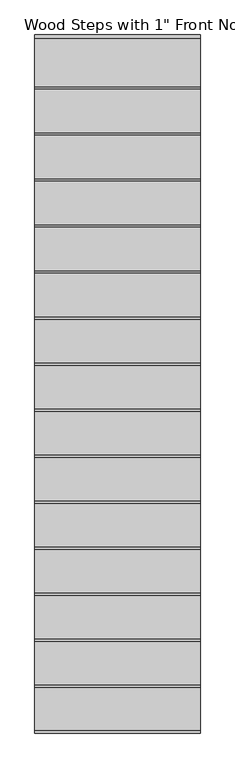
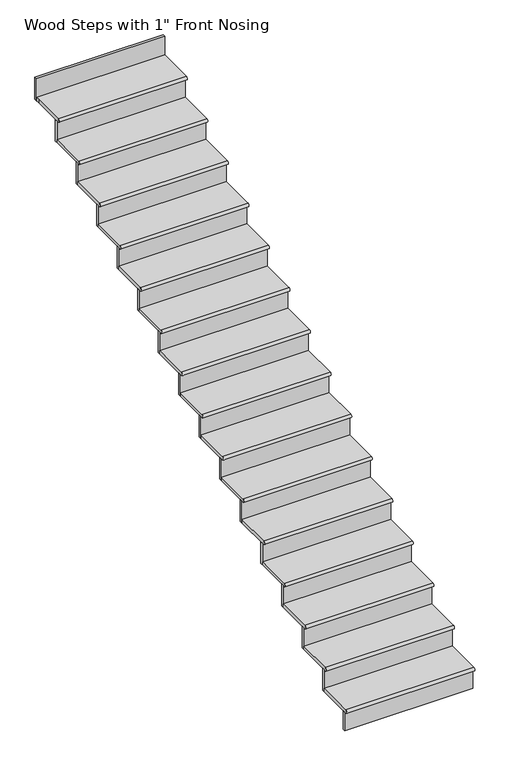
"""IFC4 building model written with IfcOpenShell, lengths in millimetres: stair flight geometry."""

from ifc_helpers import new_model, si_unit, frame, origin, place, context, project, spatial, circle_curve, faceted_brep, source, transform, mapped, element, save
from ifc_brep_helpers import plane_surface, cylinder_surface, advanced_brep


def stair_flight_4d136fde(model_context):
    return source(origin(), model_context, "Body", "SolidModel", [
        advanced_brep(
        [(-2868.1379486, -5487.6289462, -2038.746875), (-2868.1379486, -5487.6289462, -2013.346875), (-3782.5379486, -5487.6289462, -2013.346875), (-3782.5379486, -5487.6289462, -2038.746875), (-3782.5379486, -5220.9289462, -2013.346875), (-2868.1379486, -5220.9289462, -2013.346875), (-3782.5379486, -5220.9289462, -2038.746875), (-2868.1379486, -5220.9289462, -2038.746875)],
        [
            (0, 1, circle_curve(frame((-2868.1379486, -5487.6289462, -2026.046875), z_axis=(-1.0, 0.0, 0.0), x_axis=(0.0, 1.0, 0.0)), 12.7)),
            (1, 2),
            (2, 3, circle_curve(frame((-3782.5379486, -5487.6289462, -2026.046875), z_axis=(1.0, 0.0, 0.0), x_axis=(0.0, 1.0, 0.0)), 12.7)),
            (3, 0),
            (4, 2),
            (1, 5),
            (5, 4),
            (3, 6),
            (6, 7),
            (7, 0),
            (4, 6),
            (7, 5),
        ],
        [
            cylinder_surface(frame((-2868.1379486, -5487.6289462, -2026.046875), z_axis=(1.0, 0.0, 0.0), x_axis=(0.0, 1.0, 0.0)), 12.7),
            plane_surface(frame((-3782.5379486, -5500.3289462, -2013.346875), z_axis=(0.0, 0.0, 1.0), x_axis=(0.0, -1.0, 0.0))),
            plane_surface(frame((-3782.5379486, -5500.3289462, -2038.746875), z_axis=(0.0, 0.0, -1.0), x_axis=(0.0, 1.0, 0.0))),
            plane_surface(frame((-3782.5379486, -5220.9289462, -2013.346875), z_axis=(-1.0, 0.0, 0.0), x_axis=(0.0, 0.0, -1.0))),
            plane_surface(frame((-2868.1379486, -5487.6289462, -2013.346875), z_axis=(1.0, 0.0, 0.0), x_axis=(0.0, 0.0, -1.0))),
            plane_surface(frame((-2868.1379486, -5220.9289462, -2013.346875), z_axis=(0.0, 1.0, 0.0), x_axis=(0.0, 0.0, -1.0))),
        ],
        [
            (0, [[1, 2, 3, 4]]),
            (1, [[5, -2, 6, 7]]),
            (2, [[8, 9, 10, -4]]),
            (3, [[-5, 11, -8, -3]]),
            (4, [[-6, -1, -10, 12]]),
            (5, [[-7, -12, -9, -11]]),
        ],
    ),
        faceted_brep([(-2868.1379486, -5474.9289462, -2038.746875), (-2868.1379486, -5474.9289462, -2178.05), (-2868.1379486, -5455.8789462, -2178.05), (-2868.1379486, -5455.8789462, -2038.746875), (-3782.5379486, -5474.9289462, -2038.746875), (-3782.5379486, -5455.8789462, -2038.746875), (-3782.5379486, -5455.8789462, -2178.05), (-3782.5379486, -5474.9289462, -2178.05)], [[[0, 1, 2, 3]], [[4, 5, 6, 7]], [[1, 0, 4, 7]], [[2, 1, 7, 6]], [[3, 2, 6, 5]], [[0, 3, 5, 4]]]),
        faceted_brep([(-2868.1379486, -5220.9289462, -1874.04375), (-2868.1379486, -5220.9289462, -2038.746875), (-2868.1379486, -5201.8789462, -2038.746875), (-2868.1379486, -5201.8789462, -1874.04375), (-3782.5379486, -5220.9289462, -1874.04375), (-3782.5379486, -5201.8789462, -1874.04375), (-3782.5379486, -5201.8789462, -2038.746875), (-3782.5379486, -5220.9289462, -2038.746875)], [[[0, 1, 2, 3]], [[4, 5, 6, 7]], [[1, 0, 4, 7]], [[2, 1, 7, 6]], [[3, 2, 6, 5]], [[0, 3, 5, 4]]]),
        advanced_brep(
        [(-3782.5379486, -4966.9289462, -1848.64375), (-3782.5379486, -5233.6289462, -1848.64375), (-2868.1379486, -5233.6289462, -1848.64375), (-2868.1379486, -4966.9289462, -1848.64375), (-3782.5379486, -5233.6289462, -1874.04375), (-3782.5379486, -4966.9289462, -1874.04375), (-2868.1379486, -4966.9289462, -1874.04375), (-2868.1379486, -5233.6289462, -1874.04375)],
        [
            (0, 1),
            (1, 2),
            (2, 3),
            (3, 0),
            (4, 5),
            (5, 6),
            (6, 7),
            (7, 4),
            (0, 5),
            (4, 1, circle_curve(frame((-3782.5379486, -5233.6289462, -1861.34375), z_axis=(-1.0, 0.0, 0.0), x_axis=(0.0, 1.0, 0.0)), 12.7)),
            (2, 7, circle_curve(frame((-2868.1379486, -5233.6289462, -1861.34375), z_axis=(1.0, 0.0, 0.0), x_axis=(0.0, 1.0, 0.0)), 12.7)),
            (6, 3),
        ],
        [
            plane_surface(frame((-3782.5379486, -5500.3289462, -1848.64375), z_axis=(0.0, 0.0, 1.0), x_axis=(0.0, -1.0, 0.0))),
            plane_surface(frame((-3782.5379486, -5500.3289462, -1874.04375), z_axis=(0.0, 0.0, -1.0), x_axis=(0.0, 1.0, 0.0))),
            plane_surface(frame((-3782.5379486, -4966.9289462, -1848.64375), z_axis=(-1.0, 0.0, 0.0), x_axis=(0.0, 0.0, -1.0))),
            plane_surface(frame((-2868.1379486, -5233.6289462, -1848.64375), z_axis=(1.0, 0.0, 0.0), x_axis=(0.0, 0.0, -1.0))),
            plane_surface(frame((-2868.1379486, -4966.9289462, -1848.64375), z_axis=(0.0, 1.0, 0.0), x_axis=(0.0, 0.0, -1.0))),
            cylinder_surface(frame((-2868.1379486, -5233.6289462, -1861.34375), z_axis=(1.0, 0.0, 0.0), x_axis=(0.0, 1.0, 0.0)), 12.7),
        ],
        [
            (0, [[1, 2, 3, 4]]),
            (1, [[5, 6, 7, 8]]),
            (2, [[-1, 9, -5, 10]]),
            (3, [[-3, 11, -7, 12]]),
            (4, [[-4, -12, -6, -9]]),
            (5, [[-11, -2, -10, -8]]),
        ],
    ),
        faceted_brep([(-2868.1379486, -4966.9289462, -1709.340625), (-2868.1379486, -4966.9289462, -1874.04375), (-2868.1379486, -4947.8789462, -1874.04375), (-2868.1379486, -4947.8789462, -1709.340625), (-3782.5379486, -4966.9289462, -1709.340625), (-3782.5379486, -4947.8789462, -1709.340625), (-3782.5379486, -4947.8789462, -1874.04375), (-3782.5379486, -4966.9289462, -1874.04375)], [[[0, 1, 2, 3]], [[4, 5, 6, 7]], [[1, 0, 4, 7]], [[2, 1, 7, 6]], [[3, 2, 6, 5]], [[0, 3, 5, 4]]]),
        advanced_brep(
        [(-3782.5379486, -4712.9289462, -1683.940625), (-3782.5379486, -4979.6289462, -1683.940625), (-2868.1379486, -4979.6289462, -1683.940625), (-2868.1379486, -4712.9289462, -1683.940625), (-3782.5379486, -4979.6289462, -1709.340625), (-3782.5379486, -4712.9289462, -1709.340625), (-2868.1379486, -4712.9289462, -1709.340625), (-2868.1379486, -4979.6289462, -1709.340625)],
        [
            (0, 1),
            (1, 2),
            (2, 3),
            (3, 0),
            (4, 5),
            (5, 6),
            (6, 7),
            (7, 4),
            (0, 5),
            (4, 1, circle_curve(frame((-3782.5379486, -4979.6289462, -1696.640625), z_axis=(-1.0, 0.0, 0.0), x_axis=(0.0, 1.0, 0.0)), 12.7)),
            (2, 7, circle_curve(frame((-2868.1379486, -4979.6289462, -1696.640625), z_axis=(1.0, 0.0, 0.0), x_axis=(0.0, 1.0, 0.0)), 12.7)),
            (6, 3),
        ],
        [
            plane_surface(frame((-3782.5379486, -5246.3289462, -1683.940625), z_axis=(0.0, 0.0, 1.0), x_axis=(0.0, -1.0, 0.0))),
            plane_surface(frame((-3782.5379486, -5246.3289462, -1709.340625), z_axis=(0.0, 0.0, -1.0), x_axis=(0.0, 1.0, 0.0))),
            plane_surface(frame((-3782.5379486, -4712.9289462, -1683.940625), z_axis=(-1.0, 0.0, 0.0), x_axis=(0.0, 0.0, -1.0))),
            plane_surface(frame((-2868.1379486, -4979.6289462, -1683.940625), z_axis=(1.0, 0.0, 0.0), x_axis=(0.0, 0.0, -1.0))),
            plane_surface(frame((-2868.1379486, -4712.9289462, -1683.940625), z_axis=(0.0, 1.0, 0.0), x_axis=(0.0, 0.0, -1.0))),
            cylinder_surface(frame((-2868.1379486, -4979.6289462, -1696.640625), z_axis=(1.0, 0.0, 0.0), x_axis=(0.0, 1.0, 0.0)), 12.7),
        ],
        [
            (0, [[1, 2, 3, 4]]),
            (1, [[5, 6, 7, 8]]),
            (2, [[-1, 9, -5, 10]]),
            (3, [[-3, 11, -7, 12]]),
            (4, [[-4, -12, -6, -9]]),
            (5, [[-11, -2, -10, -8]]),
        ],
    ),
        faceted_brep([(-2868.1379486, -4712.9289462, -1544.6375), (-2868.1379486, -4712.9289462, -1709.340625), (-2868.1379486, -4693.8789462, -1709.340625), (-2868.1379486, -4693.8789462, -1544.6375), (-3782.5379486, -4712.9289462, -1544.6375), (-3782.5379486, -4693.8789462, -1544.6375), (-3782.5379486, -4693.8789462, -1709.340625), (-3782.5379486, -4712.9289462, -1709.340625)], [[[0, 1, 2, 3]], [[4, 5, 6, 7]], [[1, 0, 4, 7]], [[2, 1, 7, 6]], [[3, 2, 6, 5]], [[0, 3, 5, 4]]]),
        advanced_brep(
        [(-3782.5379486, -4458.9289462, -1519.2375), (-3782.5379486, -4725.6289462, -1519.2375), (-2868.1379486, -4725.6289462, -1519.2375), (-2868.1379486, -4458.9289462, -1519.2375), (-3782.5379486, -4725.6289462, -1544.6375), (-3782.5379486, -4458.9289462, -1544.6375), (-2868.1379486, -4458.9289462, -1544.6375), (-2868.1379486, -4725.6289462, -1544.6375)],
        [
            (0, 1),
            (1, 2),
            (2, 3),
            (3, 0),
            (4, 5),
            (5, 6),
            (6, 7),
            (7, 4),
            (0, 5),
            (4, 1, circle_curve(frame((-3782.5379486, -4725.6289462, -1531.9375), z_axis=(-1.0, 0.0, 0.0), x_axis=(0.0, 1.0, 0.0)), 12.7)),
            (2, 7, circle_curve(frame((-2868.1379486, -4725.6289462, -1531.9375), z_axis=(1.0, 0.0, 0.0), x_axis=(0.0, 1.0, 0.0)), 12.7)),
            (6, 3),
        ],
        [
            plane_surface(frame((-3782.5379486, -4992.3289462, -1519.2375), z_axis=(0.0, 0.0, 1.0), x_axis=(0.0, -1.0, 0.0))),
            plane_surface(frame((-3782.5379486, -4992.3289462, -1544.6375), z_axis=(0.0, 0.0, -1.0), x_axis=(0.0, 1.0, 0.0))),
            plane_surface(frame((-3782.5379486, -4458.9289462, -1519.2375), z_axis=(-1.0, 0.0, 0.0), x_axis=(0.0, 0.0, -1.0))),
            plane_surface(frame((-2868.1379486, -4725.6289462, -1519.2375), z_axis=(1.0, 0.0, 0.0), x_axis=(0.0, 0.0, -1.0))),
            plane_surface(frame((-2868.1379486, -4458.9289462, -1519.2375), z_axis=(0.0, 1.0, 0.0), x_axis=(0.0, 0.0, -1.0))),
            cylinder_surface(frame((-2868.1379486, -4725.6289462, -1531.9375), z_axis=(1.0, 0.0, 0.0), x_axis=(0.0, 1.0, 0.0)), 12.7),
        ],
        [
            (0, [[1, 2, 3, 4]]),
            (1, [[5, 6, 7, 8]]),
            (2, [[-1, 9, -5, 10]]),
            (3, [[-3, 11, -7, 12]]),
            (4, [[-4, -12, -6, -9]]),
            (5, [[-11, -2, -10, -8]]),
        ],
    ),
        faceted_brep([(-2868.1379486, -4458.9289462, -1379.934375), (-2868.1379486, -4458.9289462, -1544.6375), (-2868.1379486, -4439.8789462, -1544.6375), (-2868.1379486, -4439.8789462, -1379.934375), (-3782.5379486, -4458.9289462, -1379.934375), (-3782.5379486, -4439.8789462, -1379.934375), (-3782.5379486, -4439.8789462, -1544.6375), (-3782.5379486, -4458.9289462, -1544.6375)], [[[0, 1, 2, 3]], [[4, 5, 6, 7]], [[1, 0, 4, 7]], [[2, 1, 7, 6]], [[3, 2, 6, 5]], [[0, 3, 5, 4]]]),
        advanced_brep(
        [(-3782.5379486, -4204.9289462, -1354.534375), (-3782.5379486, -4471.6289462, -1354.534375), (-2868.1379486, -4471.6289462, -1354.534375), (-2868.1379486, -4204.9289462, -1354.534375), (-3782.5379486, -4471.6289462, -1379.934375), (-3782.5379486, -4204.9289462, -1379.934375), (-2868.1379486, -4204.9289462, -1379.934375), (-2868.1379486, -4471.6289462, -1379.934375)],
        [
            (0, 1),
            (1, 2),
            (2, 3),
            (3, 0),
            (4, 5),
            (5, 6),
            (6, 7),
            (7, 4),
            (0, 5),
            (4, 1, circle_curve(frame((-3782.5379486, -4471.6289462, -1367.234375), z_axis=(-1.0, 0.0, 0.0), x_axis=(0.0, 1.0, 0.0)), 12.7)),
            (2, 7, circle_curve(frame((-2868.1379486, -4471.6289462, -1367.234375), z_axis=(1.0, 0.0, 0.0), x_axis=(0.0, 1.0, 0.0)), 12.7)),
            (6, 3),
        ],
        [
            plane_surface(frame((-3782.5379486, -4738.3289462, -1354.534375), z_axis=(0.0, 0.0, 1.0), x_axis=(0.0, -1.0, 0.0))),
            plane_surface(frame((-3782.5379486, -4738.3289462, -1379.934375), z_axis=(0.0, 0.0, -1.0), x_axis=(0.0, 1.0, 0.0))),
            plane_surface(frame((-3782.5379486, -4204.9289462, -1354.534375), z_axis=(-1.0, 0.0, 0.0), x_axis=(0.0, 0.0, -1.0))),
            plane_surface(frame((-2868.1379486, -4471.6289462, -1354.534375), z_axis=(1.0, 0.0, 0.0), x_axis=(0.0, 0.0, -1.0))),
            plane_surface(frame((-2868.1379486, -4204.9289462, -1354.534375), z_axis=(0.0, 1.0, 0.0), x_axis=(0.0, 0.0, -1.0))),
            cylinder_surface(frame((-2868.1379486, -4471.6289462, -1367.234375), z_axis=(1.0, 0.0, 0.0), x_axis=(0.0, 1.0, 0.0)), 12.7),
        ],
        [
            (0, [[1, 2, 3, 4]]),
            (1, [[5, 6, 7, 8]]),
            (2, [[-1, 9, -5, 10]]),
            (3, [[-3, 11, -7, 12]]),
            (4, [[-4, -12, -6, -9]]),
            (5, [[-11, -2, -10, -8]]),
        ],
    ),
        faceted_brep([(-2868.1379486, -4204.9289462, -1215.23125), (-2868.1379486, -4204.9289462, -1379.934375), (-2868.1379486, -4185.8789462, -1379.934375), (-2868.1379486, -4185.8789462, -1215.23125), (-3782.5379486, -4204.9289462, -1215.23125), (-3782.5379486, -4185.8789462, -1215.23125), (-3782.5379486, -4185.8789462, -1379.934375), (-3782.5379486, -4204.9289462, -1379.934375)], [[[0, 1, 2, 3]], [[4, 5, 6, 7]], [[1, 0, 4, 7]], [[2, 1, 7, 6]], [[3, 2, 6, 5]], [[0, 3, 5, 4]]]),
        advanced_brep(
        [(-3782.5379486, -3950.9289462, -1189.83125), (-3782.5379486, -4217.6289462, -1189.83125), (-2868.1379486, -4217.6289462, -1189.83125), (-2868.1379486, -3950.9289462, -1189.83125), (-3782.5379486, -4217.6289462, -1215.23125), (-3782.5379486, -3950.9289462, -1215.23125), (-2868.1379486, -3950.9289462, -1215.23125), (-2868.1379486, -4217.6289462, -1215.23125)],
        [
            (0, 1),
            (1, 2),
            (2, 3),
            (3, 0),
            (4, 5),
            (5, 6),
            (6, 7),
            (7, 4),
            (0, 5),
            (4, 1, circle_curve(frame((-3782.5379486, -4217.6289462, -1202.53125), z_axis=(-1.0, 0.0, 0.0), x_axis=(0.0, 1.0, 0.0)), 12.7)),
            (2, 7, circle_curve(frame((-2868.1379486, -4217.6289462, -1202.53125), z_axis=(1.0, 0.0, 0.0), x_axis=(0.0, 1.0, 0.0)), 12.7)),
            (6, 3),
        ],
        [
            plane_surface(frame((-3782.5379486, -4484.3289462, -1189.83125), z_axis=(0.0, 0.0, 1.0), x_axis=(0.0, -1.0, 0.0))),
            plane_surface(frame((-3782.5379486, -4484.3289462, -1215.23125), z_axis=(0.0, 0.0, -1.0), x_axis=(0.0, 1.0, 0.0))),
            plane_surface(frame((-3782.5379486, -3950.9289462, -1189.83125), z_axis=(-1.0, 0.0, 0.0), x_axis=(0.0, 0.0, -1.0))),
            plane_surface(frame((-2868.1379486, -4217.6289462, -1189.83125), z_axis=(1.0, 0.0, 0.0), x_axis=(0.0, 0.0, -1.0))),
            plane_surface(frame((-2868.1379486, -3950.9289462, -1189.83125), z_axis=(0.0, 1.0, 0.0), x_axis=(0.0, 0.0, -1.0))),
            cylinder_surface(frame((-2868.1379486, -4217.6289462, -1202.53125), z_axis=(1.0, 0.0, 0.0), x_axis=(0.0, 1.0, 0.0)), 12.7),
        ],
        [
            (0, [[1, 2, 3, 4]]),
            (1, [[5, 6, 7, 8]]),
            (2, [[-1, 9, -5, 10]]),
            (3, [[-3, 11, -7, 12]]),
            (4, [[-4, -12, -6, -9]]),
            (5, [[-11, -2, -10, -8]]),
        ],
    ),
        faceted_brep([(-2868.1379486, -3950.9289462, -1050.528125), (-2868.1379486, -3950.9289462, -1215.23125), (-2868.1379486, -3931.8789462, -1215.23125), (-2868.1379486, -3931.8789462, -1050.528125), (-3782.5379486, -3950.9289462, -1050.528125), (-3782.5379486, -3931.8789462, -1050.528125), (-3782.5379486, -3931.8789462, -1215.23125), (-3782.5379486, -3950.9289462, -1215.23125)], [[[0, 1, 2, 3]], [[4, 5, 6, 7]], [[1, 0, 4, 7]], [[2, 1, 7, 6]], [[3, 2, 6, 5]], [[0, 3, 5, 4]]]),
        advanced_brep(
        [(-3782.5379486, -3696.9289462, -1025.128125), (-3782.5379486, -3963.6289462, -1025.128125), (-2868.1379486, -3963.6289462, -1025.128125), (-2868.1379486, -3696.9289462, -1025.128125), (-3782.5379486, -3963.6289462, -1050.528125), (-3782.5379486, -3696.9289462, -1050.528125), (-2868.1379486, -3696.9289462, -1050.528125), (-2868.1379486, -3963.6289462, -1050.528125)],
        [
            (0, 1),
            (1, 2),
            (2, 3),
            (3, 0),
            (4, 5),
            (5, 6),
            (6, 7),
            (7, 4),
            (0, 5),
            (4, 1, circle_curve(frame((-3782.5379486, -3963.6289462, -1037.828125), z_axis=(-1.0, 0.0, 0.0), x_axis=(0.0, 1.0, 0.0)), 12.7)),
            (2, 7, circle_curve(frame((-2868.1379486, -3963.6289462, -1037.828125), z_axis=(1.0, 0.0, 0.0), x_axis=(0.0, 1.0, 0.0)), 12.7)),
            (6, 3),
        ],
        [
            plane_surface(frame((-3782.5379486, -4230.3289462, -1025.128125), z_axis=(0.0, 0.0, 1.0), x_axis=(0.0, -1.0, 0.0))),
            plane_surface(frame((-3782.5379486, -4230.3289462, -1050.528125), z_axis=(0.0, 0.0, -1.0), x_axis=(0.0, 1.0, 0.0))),
            plane_surface(frame((-3782.5379486, -3696.9289462, -1025.128125), z_axis=(-1.0, 0.0, 0.0), x_axis=(0.0, 0.0, -1.0))),
            plane_surface(frame((-2868.1379486, -3963.6289462, -1025.128125), z_axis=(1.0, 0.0, 0.0), x_axis=(0.0, 0.0, -1.0))),
            plane_surface(frame((-2868.1379486, -3696.9289462, -1025.128125), z_axis=(0.0, 1.0, 0.0), x_axis=(0.0, 0.0, -1.0))),
            cylinder_surface(frame((-2868.1379486, -3963.6289462, -1037.828125), z_axis=(1.0, 0.0, 0.0), x_axis=(0.0, 1.0, 0.0)), 12.7),
        ],
        [
            (0, [[1, 2, 3, 4]]),
            (1, [[5, 6, 7, 8]]),
            (2, [[-1, 9, -5, 10]]),
            (3, [[-3, 11, -7, 12]]),
            (4, [[-4, -12, -6, -9]]),
            (5, [[-11, -2, -10, -8]]),
        ],
    ),
        faceted_brep([(-2868.1379486, -3696.9289462, -885.825), (-2868.1379486, -3696.9289462, -1050.528125), (-2868.1379486, -3677.8789462, -1050.528125), (-2868.1379486, -3677.8789462, -885.825), (-3782.5379486, -3696.9289462, -885.825), (-3782.5379486, -3677.8789462, -885.825), (-3782.5379486, -3677.8789462, -1050.528125), (-3782.5379486, -3696.9289462, -1050.528125)], [[[0, 1, 2, 3]], [[4, 5, 6, 7]], [[1, 0, 4, 7]], [[2, 1, 7, 6]], [[3, 2, 6, 5]], [[0, 3, 5, 4]]]),
        advanced_brep(
        [(-3782.5379486, -3442.9289462, -860.425), (-3782.5379486, -3709.6289462, -860.425), (-2868.1379486, -3709.6289462, -860.425), (-2868.1379486, -3442.9289462, -860.425), (-3782.5379486, -3709.6289462, -885.825), (-3782.5379486, -3442.9289462, -885.825), (-2868.1379486, -3442.9289462, -885.825), (-2868.1379486, -3709.6289462, -885.825)],
        [
            (0, 1),
            (1, 2),
            (2, 3),
            (3, 0),
            (4, 5),
            (5, 6),
            (6, 7),
            (7, 4),
            (0, 5),
            (4, 1, circle_curve(frame((-3782.5379486, -3709.6289462, -873.125), z_axis=(-1.0, 0.0, 0.0), x_axis=(0.0, 1.0, 0.0)), 12.7)),
            (2, 7, circle_curve(frame((-2868.1379486, -3709.6289462, -873.125), z_axis=(1.0, 0.0, 0.0), x_axis=(0.0, 1.0, 0.0)), 12.7)),
            (6, 3),
        ],
        [
            plane_surface(frame((-3782.5379486, -3976.3289462, -860.425), z_axis=(0.0, 0.0, 1.0), x_axis=(0.0, -1.0, 0.0))),
            plane_surface(frame((-3782.5379486, -3976.3289462, -885.825), z_axis=(0.0, 0.0, -1.0), x_axis=(0.0, 1.0, 0.0))),
            plane_surface(frame((-3782.5379486, -3442.9289462, -860.425), z_axis=(-1.0, 0.0, 0.0), x_axis=(0.0, 0.0, -1.0))),
            plane_surface(frame((-2868.1379486, -3709.6289462, -860.425), z_axis=(1.0, 0.0, 0.0), x_axis=(0.0, 0.0, -1.0))),
            plane_surface(frame((-2868.1379486, -3442.9289462, -860.425), z_axis=(0.0, 1.0, 0.0), x_axis=(0.0, 0.0, -1.0))),
            cylinder_surface(frame((-2868.1379486, -3709.6289462, -873.125), z_axis=(1.0, 0.0, 0.0), x_axis=(0.0, 1.0, 0.0)), 12.7),
        ],
        [
            (0, [[1, 2, 3, 4]]),
            (1, [[5, 6, 7, 8]]),
            (2, [[-1, 9, -5, 10]]),
            (3, [[-3, 11, -7, 12]]),
            (4, [[-4, -12, -6, -9]]),
            (5, [[-11, -2, -10, -8]]),
        ],
    ),
        faceted_brep([(-2868.1379486, -3442.9289462, -721.121875), (-2868.1379486, -3442.9289462, -885.825), (-2868.1379486, -3423.8789462, -885.825), (-2868.1379486, -3423.8789462, -721.121875), (-3782.5379486, -3442.9289462, -721.121875), (-3782.5379486, -3423.8789462, -721.121875), (-3782.5379486, -3423.8789462, -885.825), (-3782.5379486, -3442.9289462, -885.825)], [[[0, 1, 2, 3]], [[4, 5, 6, 7]], [[1, 0, 4, 7]], [[2, 1, 7, 6]], [[3, 2, 6, 5]], [[0, 3, 5, 4]]]),
        advanced_brep(
        [(-3782.5379486, -3188.9289462, -695.721875), (-3782.5379486, -3455.6289462, -695.721875), (-2868.1379486, -3455.6289462, -695.721875), (-2868.1379486, -3188.9289462, -695.721875), (-3782.5379486, -3455.6289462, -721.121875), (-3782.5379486, -3188.9289462, -721.121875), (-2868.1379486, -3188.9289462, -721.121875), (-2868.1379486, -3455.6289462, -721.121875)],
        [
            (0, 1),
            (1, 2),
            (2, 3),
            (3, 0),
            (4, 5),
            (5, 6),
            (6, 7),
            (7, 4),
            (0, 5),
            (4, 1, circle_curve(frame((-3782.5379486, -3455.6289462, -708.421875), z_axis=(-1.0, 0.0, 0.0), x_axis=(0.0, 1.0, 0.0)), 12.7)),
            (2, 7, circle_curve(frame((-2868.1379486, -3455.6289462, -708.421875), z_axis=(1.0, 0.0, 0.0), x_axis=(0.0, 1.0, 0.0)), 12.7)),
            (6, 3),
        ],
        [
            plane_surface(frame((-3782.5379486, -3722.3289462, -695.721875), z_axis=(0.0, 0.0, 1.0), x_axis=(0.0, -1.0, 0.0))),
            plane_surface(frame((-3782.5379486, -3722.3289462, -721.121875), z_axis=(0.0, 0.0, -1.0), x_axis=(0.0, 1.0, 0.0))),
            plane_surface(frame((-3782.5379486, -3188.9289462, -695.721875), z_axis=(-1.0, 0.0, 0.0), x_axis=(0.0, 0.0, -1.0))),
            plane_surface(frame((-2868.1379486, -3455.6289462, -695.721875), z_axis=(1.0, 0.0, 0.0), x_axis=(0.0, 0.0, -1.0))),
            plane_surface(frame((-2868.1379486, -3188.9289462, -695.721875), z_axis=(0.0, 1.0, 0.0), x_axis=(0.0, 0.0, -1.0))),
            cylinder_surface(frame((-2868.1379486, -3455.6289462, -708.421875), z_axis=(1.0, 0.0, 0.0), x_axis=(0.0, 1.0, 0.0)), 12.7),
        ],
        [
            (0, [[1, 2, 3, 4]]),
            (1, [[5, 6, 7, 8]]),
            (2, [[-1, 9, -5, 10]]),
            (3, [[-3, 11, -7, 12]]),
            (4, [[-4, -12, -6, -9]]),
            (5, [[-11, -2, -10, -8]]),
        ],
    ),
        faceted_brep([(-2868.1379486, -3188.9289462, -556.41875), (-2868.1379486, -3188.9289462, -721.121875), (-2868.1379486, -3169.8789462, -721.121875), (-2868.1379486, -3169.8789462, -556.41875), (-3782.5379486, -3188.9289462, -556.41875), (-3782.5379486, -3169.8789462, -556.41875), (-3782.5379486, -3169.8789462, -721.121875), (-3782.5379486, -3188.9289462, -721.121875)], [[[0, 1, 2, 3]], [[4, 5, 6, 7]], [[1, 0, 4, 7]], [[2, 1, 7, 6]], [[3, 2, 6, 5]], [[0, 3, 5, 4]]]),
        advanced_brep(
        [(-3782.5379486, -2934.9289462, -531.01875), (-3782.5379486, -3201.6289462, -531.01875), (-2868.1379486, -3201.6289462, -531.01875), (-2868.1379486, -2934.9289462, -531.01875), (-3782.5379486, -3201.6289462, -556.41875), (-3782.5379486, -2934.9289462, -556.41875), (-2868.1379486, -2934.9289462, -556.41875), (-2868.1379486, -3201.6289462, -556.41875)],
        [
            (0, 1),
            (1, 2),
            (2, 3),
            (3, 0),
            (4, 5),
            (5, 6),
            (6, 7),
            (7, 4),
            (0, 5),
            (4, 1, circle_curve(frame((-3782.5379486, -3201.6289462, -543.71875), z_axis=(-1.0, 0.0, 0.0), x_axis=(0.0, 1.0, 0.0)), 12.7)),
            (2, 7, circle_curve(frame((-2868.1379486, -3201.6289462, -543.71875), z_axis=(1.0, 0.0, 0.0), x_axis=(0.0, 1.0, 0.0)), 12.7)),
            (6, 3),
        ],
        [
            plane_surface(frame((-3782.5379486, -3468.3289462, -531.01875), z_axis=(0.0, 0.0, 1.0), x_axis=(0.0, -1.0, 0.0))),
            plane_surface(frame((-3782.5379486, -3468.3289462, -556.41875), z_axis=(0.0, 0.0, -1.0), x_axis=(0.0, 1.0, 0.0))),
            plane_surface(frame((-3782.5379486, -2934.9289462, -531.01875), z_axis=(-1.0, 0.0, 0.0), x_axis=(0.0, 0.0, -1.0))),
            plane_surface(frame((-2868.1379486, -3201.6289462, -531.01875), z_axis=(1.0, 0.0, 0.0), x_axis=(0.0, 0.0, -1.0))),
            plane_surface(frame((-2868.1379486, -2934.9289462, -531.01875), z_axis=(0.0, 1.0, 0.0), x_axis=(0.0, 0.0, -1.0))),
            cylinder_surface(frame((-2868.1379486, -3201.6289462, -543.71875), z_axis=(1.0, 0.0, 0.0), x_axis=(0.0, 1.0, 0.0)), 12.7),
        ],
        [
            (0, [[1, 2, 3, 4]]),
            (1, [[5, 6, 7, 8]]),
            (2, [[-1, 9, -5, 10]]),
            (3, [[-3, 11, -7, 12]]),
            (4, [[-4, -12, -6, -9]]),
            (5, [[-11, -2, -10, -8]]),
        ],
    ),
        faceted_brep([(-2868.1379486, -2934.9289462, -391.715625), (-2868.1379486, -2934.9289462, -556.41875), (-2868.1379486, -2915.8789462, -556.41875), (-2868.1379486, -2915.8789462, -391.715625), (-3782.5379486, -2934.9289462, -391.715625), (-3782.5379486, -2915.8789462, -391.715625), (-3782.5379486, -2915.8789462, -556.41875), (-3782.5379486, -2934.9289462, -556.41875)], [[[0, 1, 2, 3]], [[4, 5, 6, 7]], [[1, 0, 4, 7]], [[2, 1, 7, 6]], [[3, 2, 6, 5]], [[0, 3, 5, 4]]]),
        advanced_brep(
        [(-3782.5379486, -2680.9289462, -366.315625), (-3782.5379486, -2947.6289462, -366.315625), (-2868.1379486, -2947.6289462, -366.315625), (-2868.1379486, -2680.9289462, -366.315625), (-3782.5379486, -2947.6289462, -391.715625), (-3782.5379486, -2680.9289462, -391.715625), (-2868.1379486, -2680.9289462, -391.715625), (-2868.1379486, -2947.6289462, -391.715625)],
        [
            (0, 1),
            (1, 2),
            (2, 3),
            (3, 0),
            (4, 5),
            (5, 6),
            (6, 7),
            (7, 4),
            (0, 5),
            (4, 1, circle_curve(frame((-3782.5379486, -2947.6289462, -379.015625), z_axis=(-1.0, 0.0, 0.0), x_axis=(0.0, 1.0, 0.0)), 12.7)),
            (2, 7, circle_curve(frame((-2868.1379486, -2947.6289462, -379.015625), z_axis=(1.0, 0.0, 0.0), x_axis=(0.0, 1.0, 0.0)), 12.7)),
            (6, 3),
        ],
        [
            plane_surface(frame((-3782.5379486, -3214.3289462, -366.315625), z_axis=(0.0, 0.0, 1.0), x_axis=(0.0, -1.0, 0.0))),
            plane_surface(frame((-3782.5379486, -3214.3289462, -391.715625), z_axis=(0.0, 0.0, -1.0), x_axis=(0.0, 1.0, 0.0))),
            plane_surface(frame((-3782.5379486, -2680.9289462, -366.315625), z_axis=(-1.0, 0.0, 0.0), x_axis=(0.0, 0.0, -1.0))),
            plane_surface(frame((-2868.1379486, -2947.6289462, -366.315625), z_axis=(1.0, 0.0, 0.0), x_axis=(0.0, 0.0, -1.0))),
            plane_surface(frame((-2868.1379486, -2680.9289462, -366.315625), z_axis=(0.0, 1.0, 0.0), x_axis=(0.0, 0.0, -1.0))),
            cylinder_surface(frame((-2868.1379486, -2947.6289462, -379.015625), z_axis=(1.0, 0.0, 0.0), x_axis=(0.0, 1.0, 0.0)), 12.7),
        ],
        [
            (0, [[1, 2, 3, 4]]),
            (1, [[5, 6, 7, 8]]),
            (2, [[-1, 9, -5, 10]]),
            (3, [[-3, 11, -7, 12]]),
            (4, [[-4, -12, -6, -9]]),
            (5, [[-11, -2, -10, -8]]),
        ],
    ),
        faceted_brep([(-2868.1379486, -2680.9289462, -227.0125), (-2868.1379486, -2680.9289462, -391.715625), (-2868.1379486, -2661.8789462, -391.715625), (-2868.1379486, -2661.8789462, -227.0125), (-3782.5379486, -2680.9289462, -227.0125), (-3782.5379486, -2661.8789462, -227.0125), (-3782.5379486, -2661.8789462, -391.715625), (-3782.5379486, -2680.9289462, -391.715625)], [[[0, 1, 2, 3]], [[4, 5, 6, 7]], [[1, 0, 4, 7]], [[2, 1, 7, 6]], [[3, 2, 6, 5]], [[0, 3, 5, 4]]]),
        advanced_brep(
        [(-3782.5379486, -2426.9289462, -201.6125), (-3782.5379486, -2693.6289462, -201.6125), (-2868.1379486, -2693.6289462, -201.6125), (-2868.1379486, -2426.9289462, -201.6125), (-3782.5379486, -2693.6289462, -227.0125), (-3782.5379486, -2426.9289462, -227.0125), (-2868.1379486, -2426.9289462, -227.0125), (-2868.1379486, -2693.6289462, -227.0125)],
        [
            (0, 1),
            (1, 2),
            (2, 3),
            (3, 0),
            (4, 5),
            (5, 6),
            (6, 7),
            (7, 4),
            (0, 5),
            (4, 1, circle_curve(frame((-3782.5379486, -2693.6289462, -214.3125), z_axis=(-1.0, 0.0, 0.0), x_axis=(0.0, 1.0, 0.0)), 12.7)),
            (2, 7, circle_curve(frame((-2868.1379486, -2693.6289462, -214.3125), z_axis=(1.0, 0.0, 0.0), x_axis=(0.0, 1.0, 0.0)), 12.7)),
            (6, 3),
        ],
        [
            plane_surface(frame((-3782.5379486, -2960.3289462, -201.6125), z_axis=(0.0, 0.0, 1.0), x_axis=(0.0, -1.0, 0.0))),
            plane_surface(frame((-3782.5379486, -2960.3289462, -227.0125), z_axis=(0.0, 0.0, -1.0), x_axis=(0.0, 1.0, 0.0))),
            plane_surface(frame((-3782.5379486, -2426.9289462, -201.6125), z_axis=(-1.0, 0.0, 0.0), x_axis=(0.0, 0.0, -1.0))),
            plane_surface(frame((-2868.1379486, -2693.6289462, -201.6125), z_axis=(1.0, 0.0, 0.0), x_axis=(0.0, 0.0, -1.0))),
            plane_surface(frame((-2868.1379486, -2426.9289462, -201.6125), z_axis=(0.0, 1.0, 0.0), x_axis=(0.0, 0.0, -1.0))),
            cylinder_surface(frame((-2868.1379486, -2693.6289462, -214.3125), z_axis=(1.0, 0.0, 0.0), x_axis=(0.0, 1.0, 0.0)), 12.7),
        ],
        [
            (0, [[1, 2, 3, 4]]),
            (1, [[5, 6, 7, 8]]),
            (2, [[-1, 9, -5, 10]]),
            (3, [[-3, 11, -7, 12]]),
            (4, [[-4, -12, -6, -9]]),
            (5, [[-11, -2, -10, -8]]),
        ],
    ),
        faceted_brep([(-2868.1379486, -2426.9289462, -62.309375), (-2868.1379486, -2426.9289462, -227.0125), (-2868.1379486, -2407.8789462, -227.0125), (-2868.1379486, -2407.8789462, -62.309375), (-3782.5379486, -2426.9289462, -62.309375), (-3782.5379486, -2407.8789462, -62.309375), (-3782.5379486, -2407.8789462, -227.0125), (-3782.5379486, -2426.9289462, -227.0125)], [[[0, 1, 2, 3]], [[4, 5, 6, 7]], [[1, 0, 4, 7]], [[2, 1, 7, 6]], [[3, 2, 6, 5]], [[0, 3, 5, 4]]]),
        advanced_brep(
        [(-3782.5379486, -2172.9289462, -36.909375), (-3782.5379486, -2439.6289462, -36.909375), (-2868.1379486, -2439.6289462, -36.909375), (-2868.1379486, -2172.9289462, -36.909375), (-3782.5379486, -2439.6289462, -62.309375), (-3782.5379486, -2172.9289462, -62.309375), (-2868.1379486, -2172.9289462, -62.309375), (-2868.1379486, -2439.6289462, -62.309375)],
        [
            (0, 1),
            (1, 2),
            (2, 3),
            (3, 0),
            (4, 5),
            (5, 6),
            (6, 7),
            (7, 4),
            (0, 5),
            (4, 1, circle_curve(frame((-3782.5379486, -2439.6289462, -49.609375), z_axis=(-1.0, 0.0, 0.0), x_axis=(0.0, 1.0, 0.0)), 12.7)),
            (2, 7, circle_curve(frame((-2868.1379486, -2439.6289462, -49.609375), z_axis=(1.0, 0.0, 0.0), x_axis=(0.0, 1.0, 0.0)), 12.7)),
            (6, 3),
        ],
        [
            plane_surface(frame((-3782.5379486, -2706.3289462, -36.909375), z_axis=(0.0, 0.0, 1.0), x_axis=(0.0, -1.0, 0.0))),
            plane_surface(frame((-3782.5379486, -2706.3289462, -62.309375), z_axis=(0.0, 0.0, -1.0), x_axis=(0.0, 1.0, 0.0))),
            plane_surface(frame((-3782.5379486, -2172.9289462, -36.909375), z_axis=(-1.0, 0.0, 0.0), x_axis=(0.0, 0.0, -1.0))),
            plane_surface(frame((-2868.1379486, -2439.6289462, -36.909375), z_axis=(1.0, 0.0, 0.0), x_axis=(0.0, 0.0, -1.0))),
            plane_surface(frame((-2868.1379486, -2172.9289462, -36.909375), z_axis=(0.0, 1.0, 0.0), x_axis=(0.0, 0.0, -1.0))),
            cylinder_surface(frame((-2868.1379486, -2439.6289462, -49.609375), z_axis=(1.0, 0.0, 0.0), x_axis=(0.0, 1.0, 0.0)), 12.7),
        ],
        [
            (0, [[1, 2, 3, 4]]),
            (1, [[5, 6, 7, 8]]),
            (2, [[-1, 9, -5, 10]]),
            (3, [[-3, 11, -7, 12]]),
            (4, [[-4, -12, -6, -9]]),
            (5, [[-11, -2, -10, -8]]),
        ],
    ),
        faceted_brep([(-2868.1379486, -2172.9289462, 102.39375), (-2868.1379486, -2172.9289462, -62.309375), (-2868.1379486, -2153.8789462, -62.309375), (-2868.1379486, -2153.8789462, 102.39375), (-3782.5379486, -2172.9289462, 102.39375), (-3782.5379486, -2153.8789462, 102.39375), (-3782.5379486, -2153.8789462, -62.309375), (-3782.5379486, -2172.9289462, -62.309375)], [[[0, 1, 2, 3]], [[4, 5, 6, 7]], [[1, 0, 4, 7]], [[2, 1, 7, 6]], [[3, 2, 6, 5]], [[0, 3, 5, 4]]]),
        advanced_brep(
        [(-3782.5379486, -1918.9289462, 127.79375), (-3782.5379486, -2185.6289462, 127.79375), (-2868.1379486, -2185.6289462, 127.79375), (-2868.1379486, -1918.9289462, 127.79375), (-3782.5379486, -2185.6289462, 102.39375), (-3782.5379486, -1918.9289462, 102.39375), (-2868.1379486, -1918.9289462, 102.39375), (-2868.1379486, -2185.6289462, 102.39375)],
        [
            (0, 1),
            (1, 2),
            (2, 3),
            (3, 0),
            (4, 5),
            (5, 6),
            (6, 7),
            (7, 4),
            (0, 5),
            (4, 1, circle_curve(frame((-3782.5379486, -2185.6289462, 115.09375), z_axis=(-1.0, 0.0, 0.0), x_axis=(0.0, 1.0, 0.0)), 12.7)),
            (2, 7, circle_curve(frame((-2868.1379486, -2185.6289462, 115.09375), z_axis=(1.0, 0.0, 0.0), x_axis=(0.0, 1.0, 0.0)), 12.7)),
            (6, 3),
        ],
        [
            plane_surface(frame((-3782.5379486, -2452.3289462, 127.79375), z_axis=(0.0, 0.0, 1.0), x_axis=(0.0, -1.0, 0.0))),
            plane_surface(frame((-3782.5379486, -2452.3289462, 102.39375), z_axis=(0.0, 0.0, -1.0), x_axis=(0.0, 1.0, 0.0))),
            plane_surface(frame((-3782.5379486, -1918.9289462, 127.79375), z_axis=(-1.0, 0.0, 0.0), x_axis=(0.0, 0.0, -1.0))),
            plane_surface(frame((-2868.1379486, -2185.6289462, 127.79375), z_axis=(1.0, 0.0, 0.0), x_axis=(0.0, 0.0, -1.0))),
            plane_surface(frame((-2868.1379486, -1918.9289462, 127.79375), z_axis=(0.0, 1.0, 0.0), x_axis=(0.0, 0.0, -1.0))),
            cylinder_surface(frame((-2868.1379486, -2185.6289462, 115.09375), z_axis=(1.0, 0.0, 0.0), x_axis=(0.0, 1.0, 0.0)), 12.7),
        ],
        [
            (0, [[1, 2, 3, 4]]),
            (1, [[5, 6, 7, 8]]),
            (2, [[-1, 9, -5, 10]]),
            (3, [[-3, 11, -7, 12]]),
            (4, [[-4, -12, -6, -9]]),
            (5, [[-11, -2, -10, -8]]),
        ],
    ),
        faceted_brep([(-2868.1379486, -1664.9289462, 431.8), (-2868.1379486, -1664.9289462, 267.096875), (-2868.1379486, -1645.8789462, 267.096875), (-2868.1379486, -1645.8789462, 431.8), (-3782.5379486, -1664.9289462, 431.8), (-3782.5379486, -1645.8789462, 431.8), (-3782.5379486, -1645.8789462, 267.096875), (-3782.5379486, -1664.9289462, 267.096875)], [[[0, 1, 2, 3]], [[4, 5, 6, 7]], [[1, 0, 4, 7]], [[2, 1, 7, 6]], [[3, 2, 6, 5]], [[0, 3, 5, 4]]]),
        faceted_brep([(-2868.1379486, -1918.9289462, 267.096875), (-2868.1379486, -1918.9289462, 102.39375), (-2868.1379486, -1899.8789462, 102.39375), (-2868.1379486, -1899.8789462, 267.096875), (-3782.5379486, -1918.9289462, 267.096875), (-3782.5379486, -1899.8789462, 267.096875), (-3782.5379486, -1899.8789462, 102.39375), (-3782.5379486, -1918.9289462, 102.39375)], [[[0, 1, 2, 3]], [[4, 5, 6, 7]], [[1, 0, 4, 7]], [[2, 1, 7, 6]], [[3, 2, 6, 5]], [[0, 3, 5, 4]]]),
        advanced_brep(
        [(-3782.5379486, -1664.9289462, 292.496875), (-3782.5379486, -1690.3289462, 292.496875), (-3782.5379486, -1931.6289462, 292.496875), (-2868.1379486, -1931.6289462, 292.496875), (-2868.1379486, -1690.3289462, 292.496875), (-2868.1379486, -1664.9289462, 292.496875), (-3782.5379486, -1690.3289462, 267.096875), (-3782.5379486, -1664.9289462, 267.096875), (-2868.1379486, -1664.9289462, 267.096875), (-2868.1379486, -1690.3289462, 267.096875), (-2868.1379486, -1931.6289462, 267.096875), (-3782.5379486, -1931.6289462, 267.096875)],
        [
            (0, 1),
            (1, 2),
            (2, 3),
            (3, 4),
            (4, 5),
            (5, 0),
            (6, 7),
            (7, 8),
            (8, 9),
            (9, 10),
            (10, 11),
            (11, 6),
            (0, 7),
            (6, 1),
            (11, 2, circle_curve(frame((-3782.5379486, -1931.6289462, 279.796875), z_axis=(-1.0, 0.0, 0.0), x_axis=(0.0, 1.0, 0.0)), 12.7)),
            (3, 10, circle_curve(frame((-2868.1379486, -1931.6289462, 279.796875), z_axis=(1.0, 0.0, 0.0), x_axis=(0.0, 1.0, 0.0)), 12.7)),
            (9, 4),
            (8, 5),
        ],
        [
            plane_surface(frame((-3782.5379486, -1690.3289462, 292.496875), z_axis=(0.0, 0.0, 1.0), x_axis=(0.0, -1.0, 0.0))),
            plane_surface(frame((-3782.5379486, -1690.3289462, 267.096875), z_axis=(0.0, 0.0, -1.0), x_axis=(0.0, 1.0, 0.0))),
            plane_surface(frame((-3782.5379486, -1664.9289462, 292.496875), z_axis=(-1.0, 0.0, 0.0), x_axis=(0.0, 0.0, -1.0))),
            plane_surface(frame((-3782.5379486, -1690.3289462, 292.496875), z_axis=(-1.0, 0.0, 0.0), x_axis=(0.0, 0.0, -1.0))),
            plane_surface(frame((-2868.1379486, -1931.6289462, 292.496875), z_axis=(1.0, 0.0, 0.0), x_axis=(0.0, 0.0, -1.0))),
            plane_surface(frame((-2868.1379486, -1690.3289462, 292.496875), z_axis=(1.0, 0.0, 0.0), x_axis=(0.0, 0.0, -1.0))),
            plane_surface(frame((-2868.1379486, -1664.9289462, 292.496875), z_axis=(0.0, 1.0, 0.0), x_axis=(0.0, 0.0, -1.0))),
            cylinder_surface(frame((-2868.1379486, -1931.6289462, 279.796875), z_axis=(1.0, 0.0, 0.0), x_axis=(0.0, 1.0, 0.0)), 12.7),
        ],
        [
            (0, [[1, 2, 3, 4, 5, 6]]),
            (1, [[7, 8, 9, 10, 11, 12]]),
            (2, [[-1, 13, -7, 14]]),
            (3, [[-2, -14, -12, 15]]),
            (4, [[-4, 16, -10, 17]]),
            (5, [[-5, -17, -9, 18]]),
            (6, [[-6, -18, -8, -13]]),
            (7, [[-16, -3, -15, -11]]),
        ],
    ),
    ])


if __name__ == "__main__":
    model = new_model("IFC4")
    model_context = context("Model", 3, world=origin())
    ifc_project = project(units=[si_unit("LENGTHUNIT", "METRE", prefix="MILLI")], contexts=[model_context])
    site = spatial("IfcSite", under=ifc_project)
    building = spatial("IfcBuilding", under=site)
    placement = place(None, origin())
    stair_flight_shape = stair_flight_4d136fde(model_context)
    element("IfcStairFlight", 1, ObjectType="Wood Steps with 1\" Front Nosing", at=placement, inside=building, context=model_context, shape_type="MappedRepresentation", body=[
        mapped(stair_flight_shape, transform((0.0, 0.0, 0.0), x_axis=(1.0, 0.0, 0.0), y_axis=(0.0, 1.0, 0.0), z_axis=(0.0, 0.0, 1.0))),
    ])
    save(model, "model.ifc")
